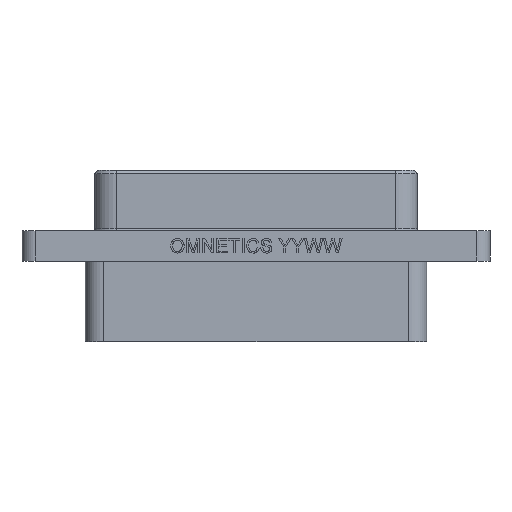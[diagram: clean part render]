
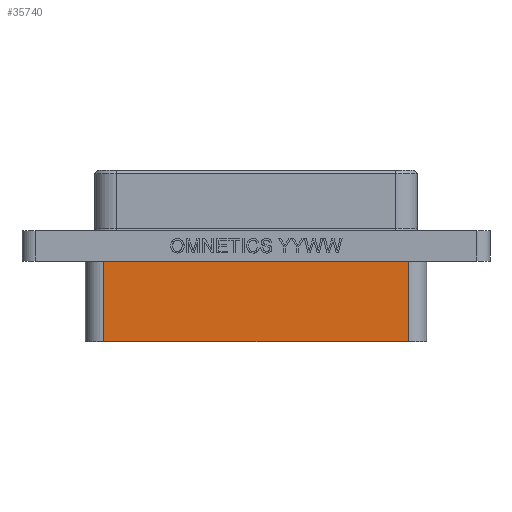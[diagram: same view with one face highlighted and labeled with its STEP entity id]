
A CAD part, front view. The second image highlights one B-rep face of the part: STEP entity #35740.
In plain terms, the highlighted planar face has unit normal (0, -1, 0).
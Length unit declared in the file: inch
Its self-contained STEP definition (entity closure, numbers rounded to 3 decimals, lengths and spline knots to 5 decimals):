
#767 = CARTESIAN_POINT ( 'NONE',  ( -0.464, -0.1516, -0.296 ) ) ;
#1861 = VECTOR ( 'NONE', #33298, 39.37008 ) ;
#1900 = VECTOR ( 'NONE', #10685, 39.37008 ) ;
#2915 = CARTESIAN_POINT ( 'NONE',  ( 0., -0.1516, -0.296 ) ) ;
#3012 = FACE_OUTER_BOUND ( 'NONE', #33533, .T. ) ;
#3649 = CARTESIAN_POINT ( 'NONE',  ( 0.464, -0.1516, -0.296 ) ) ;
#3848 = CARTESIAN_POINT ( 'NONE',  ( 0., -0.1516, -0.296 ) ) ;
#4135 = VECTOR ( 'NONE', #19934, 39.37008 ) ;
#4913 = VERTEX_POINT ( 'NONE', #25384 ) ;
#5033 = CARTESIAN_POINT ( 'NONE',  ( 0., -0.1516, -0.051 ) ) ;
#5360 = ORIENTED_EDGE ( 'NONE', *, *, #17563, .F. ) ;
#6685 = ORIENTED_EDGE ( 'NONE', *, *, #40331, .T. ) ;
#8658 = EDGE_CURVE ( 'NONE', #11382, #13139, #34081, .T. ) ;
#10685 = DIRECTION ( 'NONE',  ( 0., 0., 1. ) ) ;
#10734 = CARTESIAN_POINT ( 'NONE',  ( -0.464, -0.1516, -0.296 ) ) ;
#11382 = VERTEX_POINT ( 'NONE', #10734 ) ;
#12133 = CARTESIAN_POINT ( 'NONE',  ( -0.464, -0.1516, -0.051 ) ) ;
#13139 = VERTEX_POINT ( 'NONE', #12133 ) ;
#13501 = ORIENTED_EDGE ( 'NONE', *, *, #8658, .F. ) ;
#17563 = EDGE_CURVE ( 'NONE', #13139, #4913, #23848, .T. ) ;
#19934 = DIRECTION ( 'NONE',  ( 0., 0., 1. ) ) ;
#20429 = ORIENTED_EDGE ( 'NONE', *, *, #43298, .T. ) ;
#21301 = LINE ( 'NONE', #40974, #1900 ) ;
#23487 = DIRECTION ( 'NONE',  ( 0., 0., -1. ) ) ;
#23848 = LINE ( 'NONE', #5033, #1861 ) ;
#25384 = CARTESIAN_POINT ( 'NONE',  ( 0.464, -0.1516, -0.051 ) ) ;
#31047 = AXIS2_PLACEMENT_3D ( 'NONE', #3848, #36746, #23487 ) ;
#32944 = LINE ( 'NONE', #2915, #36699 ) ;
#33298 = DIRECTION ( 'NONE',  ( 1., 0., 0. ) ) ;
#33533 = EDGE_LOOP ( 'NONE', ( #5360, #13501, #20429, #6685 ) ) ;
#33580 = DIRECTION ( 'NONE',  ( 1., 0., 0. ) ) ;
#34081 = LINE ( 'NONE', #767, #4135 ) ;
#35086 = PLANE ( 'NONE',  #31047 ) ;
#35740 = ADVANCED_FACE ( 'NONE', ( #3012 ), #35086, .T. ) ;
#36699 = VECTOR ( 'NONE', #33580, 39.37008 ) ;
#36746 = DIRECTION ( 'NONE',  ( 0., -1., 0. ) ) ;
#39375 = VERTEX_POINT ( 'NONE', #3649 ) ;
#40331 = EDGE_CURVE ( 'NONE', #39375, #4913, #21301, .T. ) ;
#40974 = CARTESIAN_POINT ( 'NONE',  ( 0.464, -0.1516, -0.296 ) ) ;
#43298 = EDGE_CURVE ( 'NONE', #11382, #39375, #32944, .T. ) ;
